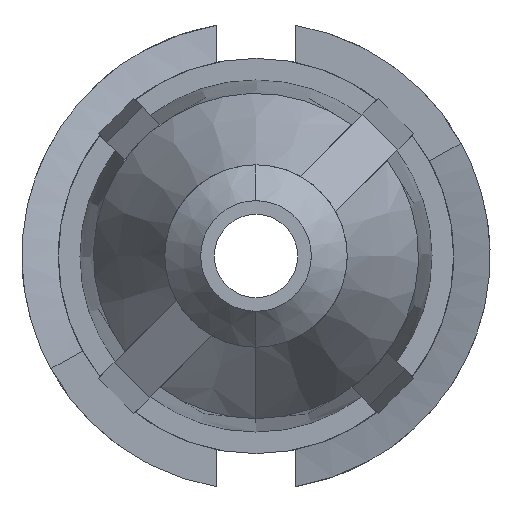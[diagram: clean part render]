
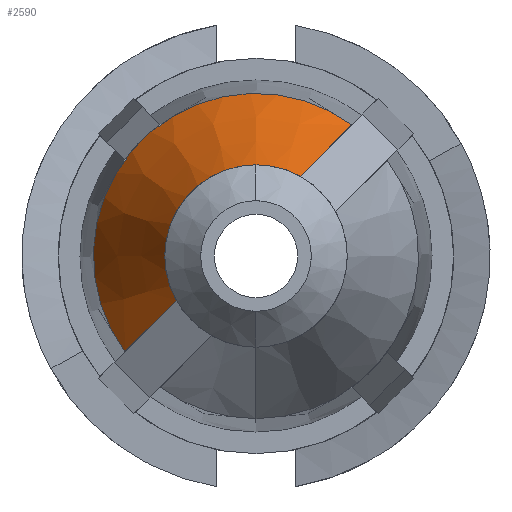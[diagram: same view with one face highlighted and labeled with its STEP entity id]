
A CAD part, left-side view. The second image highlights one B-rep face of the part: STEP entity #2590.
In plain terms, the highlighted conical face has half-angle 23.742 degrees and reference radius 2.674 mm.
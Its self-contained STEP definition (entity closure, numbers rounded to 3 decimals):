
#56 = CARTESIAN_POINT ( 'NONE',  ( -14.447, -1.561, 7.774 ) ) ;
#113 = CARTESIAN_POINT ( 'NONE',  ( -14.447, -1.561, 7.774 ) ) ;
#244 = ORIENTED_EDGE ( 'NONE', *, *, #1848, .F. ) ;
#355 = DIRECTION ( 'NONE',  ( 1., 0., 0. ) ) ;
#585 = CARTESIAN_POINT ( 'NONE',  ( -17.117, -2.292, 9.084 ) ) ;
#599 = CARTESIAN_POINT ( 'NONE',  ( -16.23, 0.036, 6.757 ) ) ;
#643 = CARTESIAN_POINT ( 'NONE',  ( -17.117, -0.251, 7.044 ) ) ;
#663 = DIRECTION ( 'NONE',  ( 1., 0., 0. ) ) ;
#722 = CARTESIAN_POINT ( 'NONE',  ( -16.23, -2.579, 9.371 ) ) ;
#727 = EDGE_CURVE ( 'NONE', #792, #763, #2755, .T. ) ;
#763 = VERTEX_POINT ( 'NONE', #585 ) ;
#772 = CARTESIAN_POINT ( 'NONE',  ( -17.117, -1.561, 9.274 ) ) ;
#792 = VERTEX_POINT ( 'NONE', #772 ) ;
#804 = CARTESIAN_POINT ( 'NONE',  ( -14.447, -3.14, 9.933 ) ) ;
#837 = AXIS2_PLACEMENT_3D ( 'NONE', #56, #663, #2510 ) ;
#874 = VERTEX_POINT ( 'NONE', #643 ) ;
#937 = B_SPLINE_CURVE_WITH_KNOTS ( 'NONE', 3,
 ( #2882, #1453, #722, #1666 ),
 .UNSPECIFIED., .F., .F.,
 ( 4, 4 ),
 ( 0., 0.003 ),
 .UNSPECIFIED. ) ;
#1000 = DIRECTION ( 'NONE',  ( 1., 0., 0. ) ) ;
#1019 = ORIENTED_EDGE ( 'NONE', *, *, #727, .T. ) ;
#1171 = CARTESIAN_POINT ( 'NONE',  ( -17.117, -1.561, 7.774 ) ) ;
#1186 = VERTEX_POINT ( 'NONE', #2058 ) ;
#1216 = EDGE_LOOP ( 'NONE', ( #244, #1839, #2769, #1367, #1019 ) ) ;
#1256 = EDGE_CURVE ( 'NONE', #1186, #874, #1654, .T. ) ;
#1367 = ORIENTED_EDGE ( 'NONE', *, *, #2614, .T. ) ;
#1453 = CARTESIAN_POINT ( 'NONE',  ( -15.339, -2.86, 9.652 ) ) ;
#1564 = DIRECTION ( 'NONE',  ( 1., 0., 0. ) ) ;
#1568 = CONICAL_SURFACE ( 'NONE', #837, 2.674, 0.414 ) ;
#1653 = DIRECTION ( 'NONE',  ( 0., 0., -1. ) ) ;
#1654 = B_SPLINE_CURVE_WITH_KNOTS ( 'NONE', 3,
 ( #2569, #2048, #599, #3005 ),
 .UNSPECIFIED., .F., .F.,
 ( 4, 4 ),
 ( 0., 0.003 ),
 .UNSPECIFIED. ) ;
#1666 = CARTESIAN_POINT ( 'NONE',  ( -17.117, -2.292, 9.084 ) ) ;
#1716 = CIRCLE ( 'NONE', #1968, 1.5 ) ;
#1788 = AXIS2_PLACEMENT_3D ( 'NONE', #1171, #1000, #1653 ) ;
#1813 = DIRECTION ( 'NONE',  ( 0., 0., -1. ) ) ;
#1839 = ORIENTED_EDGE ( 'NONE', *, *, #2629, .F. ) ;
#1848 = EDGE_CURVE ( 'NONE', #3119, #763, #937, .T. ) ;
#1968 = AXIS2_PLACEMENT_3D ( 'NONE', #2756, #355, #2316 ) ;
#2048 = CARTESIAN_POINT ( 'NONE',  ( -15.339, 0.317, 6.476 ) ) ;
#2058 = CARTESIAN_POINT ( 'NONE',  ( -14.447, 0.597, 6.195 ) ) ;
#2271 = CIRCLE ( 'NONE', #3035, 2.674 ) ;
#2316 = DIRECTION ( 'NONE',  ( 0., 0., -1. ) ) ;
#2434 = FACE_OUTER_BOUND ( 'NONE', #1216, .T. ) ;
#2510 = DIRECTION ( 'NONE',  ( 0., 0., -1. ) ) ;
#2569 = CARTESIAN_POINT ( 'NONE',  ( -14.447, 0.597, 6.195 ) ) ;
#2590 = ADVANCED_FACE ( 'NONE', ( #2434 ), #1568, .T. ) ;
#2614 = EDGE_CURVE ( 'NONE', #874, #792, #1716, .T. ) ;
#2629 = EDGE_CURVE ( 'NONE', #1186, #3119, #2271, .T. ) ;
#2755 = CIRCLE ( 'NONE', #1788, 1.5 ) ;
#2756 = CARTESIAN_POINT ( 'NONE',  ( -17.117, -1.561, 7.774 ) ) ;
#2769 = ORIENTED_EDGE ( 'NONE', *, *, #1256, .T. ) ;
#2882 = CARTESIAN_POINT ( 'NONE',  ( -14.447, -3.14, 9.933 ) ) ;
#3005 = CARTESIAN_POINT ( 'NONE',  ( -17.117, -0.251, 7.044 ) ) ;
#3035 = AXIS2_PLACEMENT_3D ( 'NONE', #113, #1564, #1813 ) ;
#3119 = VERTEX_POINT ( 'NONE', #804 ) ;
